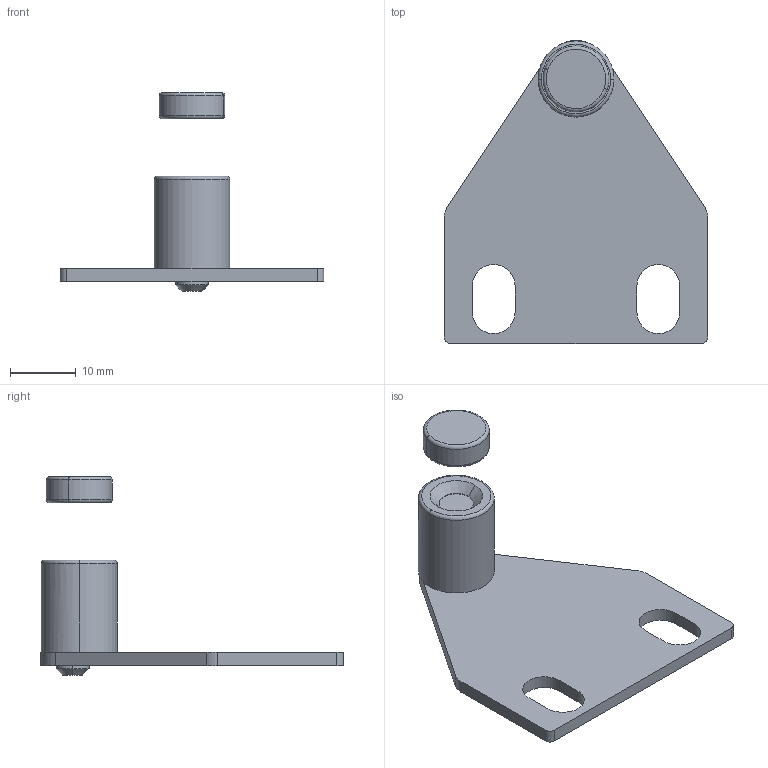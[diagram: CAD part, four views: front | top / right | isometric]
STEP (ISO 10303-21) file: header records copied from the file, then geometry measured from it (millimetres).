
FILE_DESCRIPTION (( 'STEP AP203' ), '1' );
FILE_NAME ('215-CE-DOS-S.STEP', '2015-07-09T09:28:09', ( '' ), ( '' ), 'SwSTEP 2.0', 'SolidWorks 2013', '' );
FILE_SCHEMA (( 'CONFIG_CONTROL_DESIGN' ));
Length unit declared in the file: millimetre
Products named in the file (1): 215-CE-DOS-S
Bounding box: 40 x 45.99 x 30.16 mm (x, y, z)
Surface area: 3738.6 mm2 (no closed solid volume)
Topology: 0 solids, 2 shells, 46 faces, 106 edges, 66 vertices
Faces by surface type: plane 19, cylinder 15, cone 6, torus 6
Entity records: 1396 total; most frequent: DIRECTION 256, CARTESIAN_POINT 219, ORIENTED_EDGE 212, EDGE_CURVE 106, AXIS2_PLACEMENT_3D 103, VERTEX_POINT 66, CIRCLE 56, EDGE_LOOP 52
